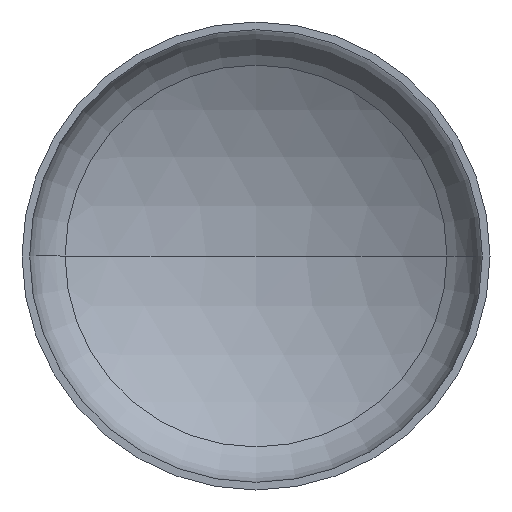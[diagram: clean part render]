
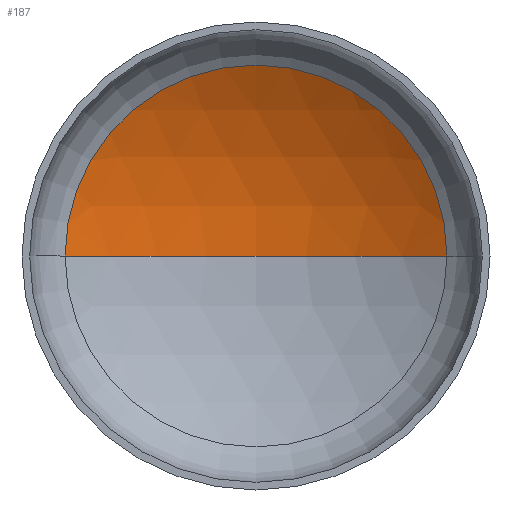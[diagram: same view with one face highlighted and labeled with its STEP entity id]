
A CAD part, front view. The second image highlights one B-rep face of the part: STEP entity #187.
In plain terms, the highlighted spherical face has radius 1760 mm.
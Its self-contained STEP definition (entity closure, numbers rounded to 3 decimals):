
#9 = ORIENTED_EDGE ( 'NONE', *, *, #94, .T. ) ;
#14 = VERTEX_POINT ( 'NONE', #239 ) ;
#31 = AXIS2_PLACEMENT_3D ( 'NONE', #341, #294, #368 ) ;
#33 = EDGE_LOOP ( 'NONE', ( #80, #65, #9 ) ) ;
#45 = AXIS2_PLACEMENT_3D ( 'NONE', #152, #318, #175 ) ;
#47 = AXIS2_PLACEMENT_3D ( 'NONE', #242, #411, #267 ) ;
#48 = VERTEX_POINT ( 'NONE', #381 ) ;
#50 = AXIS2_PLACEMENT_3D ( 'NONE', #174, #338, #199 ) ;
#65 = ORIENTED_EDGE ( 'NONE', *, *, #96, .T. ) ;
#73 = VERTEX_POINT ( 'NONE', #169 ) ;
#80 = ORIENTED_EDGE ( 'NONE', *, *, #101, .F. ) ;
#94 = EDGE_CURVE ( 'NONE', #48, #14, #150, .T. ) ;
#96 = EDGE_CURVE ( 'NONE', #73, #48, #336, .T. ) ;
#101 = EDGE_CURVE ( 'NONE', #73, #14, #392, .T. ) ;
#150 = CIRCLE ( 'NONE', #50, 897.352 ) ;
#152 = CARTESIAN_POINT ( 'NONE',  ( 0., -1111.566, 0. ) ) ;
#169 = CARTESIAN_POINT ( 'NONE',  ( 0., 648.434, 0. ) ) ;
#174 = CARTESIAN_POINT ( 'NONE',  ( 0., 402.488, 0. ) ) ;
#175 = DIRECTION ( 'NONE',  ( 1., 0., 0. ) ) ;
#187 = ADVANCED_FACE ( 'NONE', ( #205 ), #260, .F. ) ;
#199 = DIRECTION ( 'NONE',  ( 1., 0., 0. ) ) ;
#205 = FACE_OUTER_BOUND ( 'NONE', #33, .T. ) ;
#239 = CARTESIAN_POINT ( 'NONE',  ( -897.352, 402.488, 0. ) ) ;
#242 = CARTESIAN_POINT ( 'NONE',  ( 0., -1111.566, 0. ) ) ;
#260 = SPHERICAL_SURFACE ( 'NONE', #31, 1760. ) ;
#267 = DIRECTION ( 'NONE',  ( -1., 0., 0. ) ) ;
#294 = DIRECTION ( 'NONE',  ( 0., 0., -1. ) ) ;
#318 = DIRECTION ( 'NONE',  ( 0., 0., 1. ) ) ;
#336 = CIRCLE ( 'NONE', #47, 1760. ) ;
#338 = DIRECTION ( 'NONE',  ( 0., -1., 0. ) ) ;
#341 = CARTESIAN_POINT ( 'NONE',  ( 0., -1111.566, 0. ) ) ;
#368 = DIRECTION ( 'NONE',  ( -1., 0., 0. ) ) ;
#381 = CARTESIAN_POINT ( 'NONE',  ( 897.352, 402.488, 0. ) ) ;
#392 = CIRCLE ( 'NONE', #45, 1760. ) ;
#411 = DIRECTION ( 'NONE',  ( 0., 0., -1. ) ) ;
